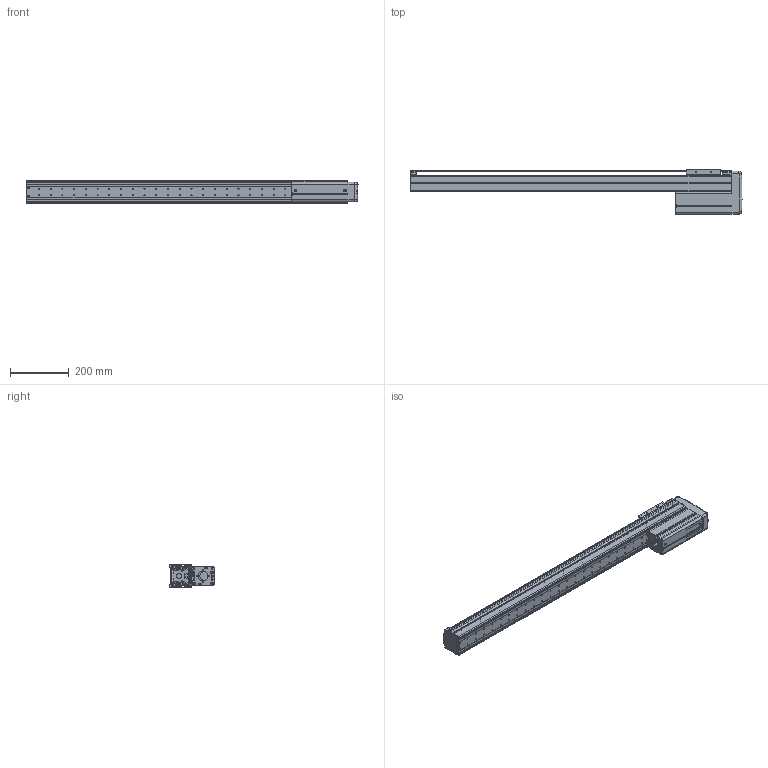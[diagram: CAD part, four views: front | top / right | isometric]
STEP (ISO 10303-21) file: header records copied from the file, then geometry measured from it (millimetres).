
FILE_DESCRIPTION((''),'2;1');
FILE_NAME('BE10E-UU-M_B-90_IGS_PRT','2017-06-17T',(' '),(''),'PRO/ENGINEER BY PARAMETRIC TECHNOLOGY CORPORATION, 2015030','PRO/ENGINEER BY PARAMETRIC TECHNOLOGY CORPORATION, 2015030','');
FILE_SCHEMA(('CONFIG_CONTROL_DESIGN'));
Length unit declared in the file: millimetre
Products named in the file (1): BE10E-UU-M_B-90_IGS_PRT
Bounding box: 1131.42 x 153 x 78 mm (x, y, z)
Volume: 1611710.8 mm3; surface area: 1094547.2 mm2
Topology: 2 solids, 129 shells, 1877 faces, 5078 edges, 3306 vertices
Faces by surface type: cylinder 921, plane 728, cone 81, torus 69, sphere 44, bspline 34
Entity records: 61543 total; most frequent: CARTESIAN_POINT 13059, DIRECTION 10514, ORIENTED_EDGE 9598, EDGE_CURVE 5042, AXIS2_PLACEMENT_3D 3944, VERTEX_POINT 3306, VECTOR 2626, LINE 2626
